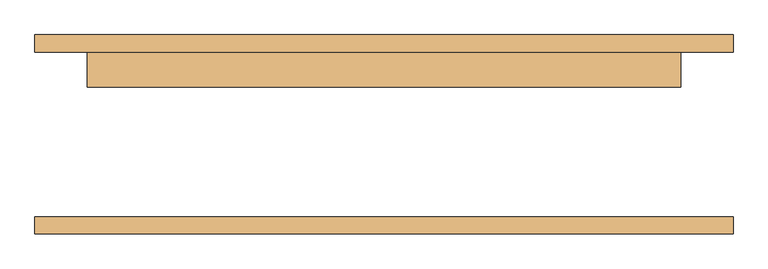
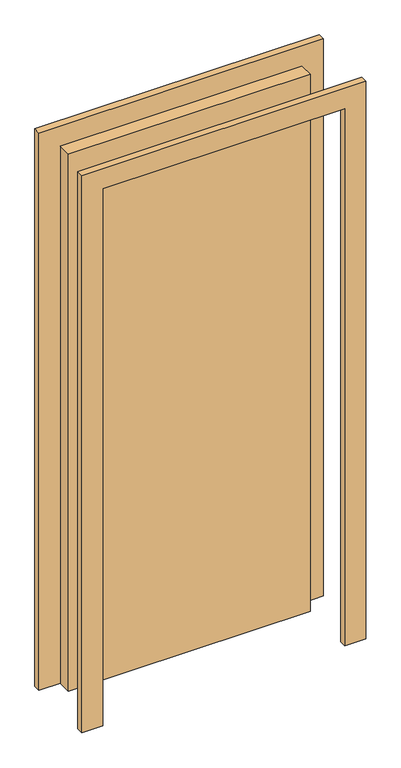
"""IFC4 building model written with IfcOpenShell, lengths in millimetres: door geometry, Одиночные-Щитовые : 0864 x 2032 мм."""

import ifcopenshell
import ifcopenshell.guid

model = None  # the IFC model being written
_history = None  # IfcOwnerHistory: only IFC2X3 demands one
_inside = {}  # id of a spatial element -> (the spatial element, [elements in it])
_under = {}  # id of a project, library or spatial element -> (it, [spatial elements below it])
_declared = {}  # id of a project -> (the project, [libraries it declares])
_typed = {}  # id of a type object -> (the type object, [elements of that type])
_made_of = {}  # id of a material, layer set ... -> (it, [elements and type objects made of it])


def new_model(schema):
    """Start an empty IFC model of exactly this schema.

    Asked for "IFC4X3", IfcOpenShell would pick the latest addendum, in which some entities
    have other attributes; the version numbers below select the first issue.
    IFC2X3 requires an IfcOwnerHistory on every rooted entity: one is made here for all.
    """
    global model, _history
    if schema == "IFC4X3":
        model = ifcopenshell.file(schema_version=(4, 3, 0, 0))
    else:
        model = ifcopenshell.file(schema=schema)
    _inside.clear()
    _under.clear()
    _declared.clear()
    _typed.clear()
    _made_of.clear()
    _history = None
    if model.schema == "IFC2X3":
        org = make("IfcOrganization", Name="unknown")
        user = make(
            "IfcPersonAndOrganization",
            ThePerson=make("IfcPerson", FamilyName="unknown"),
            TheOrganization=org,
        )
        app = make(
            "IfcApplication",
            ApplicationDeveloper=org,
            Version="unknown",
            ApplicationFullName="unknown",
            ApplicationIdentifier="unknown",
        )
        _history = make(
            "IfcOwnerHistory",
            OwningUser=user,
            OwningApplication=app,
            ChangeAction="ADDED",
            CreationDate=0,
        )
    return model


def make(cls, **values):
    """One entity of the class cls with the attributes given. An attribute that is None is left unset."""
    return model.create_entity(
        cls, **{name: value for name, value in values.items() if value is not None}
    )


def rooted(cls, **values):
    """An entity with a GlobalId (a new one), such as an element, a storey or a relation."""
    return make(cls, GlobalId=ifcopenshell.guid.new(), OwnerHistory=_history, **values)


def si_unit(unit_type, name, prefix=None):
    """IfcSIUnit, for example si_unit("LENGTHUNIT", "METRE", prefix="MILLI")."""
    return make("IfcSIUnit", UnitType=unit_type, Prefix=prefix, Name=name)


def assignment(units):
    """IfcUnitAssignment: the units of a project."""
    return None if units is None else make("IfcUnitAssignment", Units=units)


def point(xyz):
    """IfcCartesianPoint."""
    return None if xyz is None else make("IfcCartesianPoint", Coordinates=xyz)


def direction(xyz):
    """IfcDirection."""
    return None if xyz is None else make("IfcDirection", DirectionRatios=xyz)


def frame(location, z_axis=None, x_axis=None):
    """IfcAxis2Placement3D, a coordinate frame: its origin and axes. An axis left out is left unset."""
    return make(
        "IfcAxis2Placement3D",
        Location=point(location),
        Axis=direction(z_axis),
        RefDirection=direction(x_axis),
    )


def origin():
    """The frame at (0, 0, 0) with its axes left unset."""
    return frame((0.0, 0.0, 0.0))


def origin_with_axes():
    """The frame at (0, 0, 0) with the z axis (0, 0, 1) and the x axis (1, 0, 0) written out."""
    return frame((0.0, 0.0, 0.0), z_axis=(0.0, 0.0, 1.0), x_axis=(1.0, 0.0, 0.0))


def place(relative_to, where):
    """IfcLocalPlacement: puts the frame where relative to a parent placement (None: the world)."""
    return make(
        "IfcLocalPlacement", PlacementRelTo=relative_to, RelativePlacement=where
    )


def context(
    kind, dimensions, precision=None, world=None, true_north=None, identifier=None
):
    """IfcGeometricRepresentationContext, for example the 3D "Model" context."""
    return make(
        "IfcGeometricRepresentationContext",
        ContextIdentifier=identifier,
        ContextType=kind,
        CoordinateSpaceDimension=dimensions,
        Precision=precision,
        WorldCoordinateSystem=world,
        TrueNorth=true_north,
    )


def project(units=None, contexts=None):
    """IfcProject with its units and contexts."""
    return rooted(
        "IfcProject",
        Name="project",
        RepresentationContexts=contexts,
        UnitsInContext=assignment(units),
    )


def spatial(cls, under=None, at=None, **own):
    """A site, building, storey or space (cls), placed at a placement, below another one or the project."""
    s = rooted(cls, ObjectPlacement=at, **own)
    if under is not None:
        _under.setdefault(under.id(), (under, []))[1].append(s)
    return s


def polyline(points):
    """IfcPolyline through the points."""
    return make("IfcPolyline", Points=[point(p) for p in points])


def outline(outer, holes=None, kind="AREA"):
    """IfcArbitraryClosedProfileDef: a profile drawn as a closed curve; with holes, ...WithVoids."""
    if holes is None:
        return make("IfcArbitraryClosedProfileDef", ProfileType=kind, OuterCurve=outer)
    return make(
        "IfcArbitraryProfileDefWithVoids",
        ProfileType=kind,
        OuterCurve=outer,
        InnerCurves=holes,
    )


def extrude(swept, where, along, depth):
    """IfcExtrudedAreaSolid: the profile swept, set in the frame where, extruded along a direction by depth."""
    return make(
        "IfcExtrudedAreaSolid",
        SweptArea=swept,
        Position=where,
        ExtrudedDirection=direction(along),
        Depth=depth,
    )


def shape(context_of_items, identifier, shape_type, items):
    """IfcShapeRepresentation: the items that make up one representation, for example the "Body"."""
    return make(
        "IfcShapeRepresentation",
        ContextOfItems=context_of_items,
        RepresentationIdentifier=identifier,
        RepresentationType=shape_type,
        Items=items,
    )


def source(mapping_origin, context_of_items, identifier, shape_type, items):
    """IfcRepresentationMap: a shape defined once, which mapped items show again and again."""
    return make(
        "IfcRepresentationMap",
        MappingOrigin=mapping_origin,
        MappedRepresentation=shape(context_of_items, identifier, shape_type, items),
    )


def transform(
    local_origin,
    x_axis=None,
    y_axis=None,
    z_axis=None,
    scale=None,
    scale2=None,
    scale3=None,
    uniform=True,
):
    """IfcCartesianTransformationOperator3D, or its non-uniform kind. x_axis, y_axis, z_axis: its Axis1, 2, 3."""
    if uniform:
        return make(
            "IfcCartesianTransformationOperator3D",
            Axis1=direction(x_axis),
            Axis2=direction(y_axis),
            LocalOrigin=point(local_origin),
            Scale=scale,
            Axis3=direction(z_axis),
        )
    return make(
        "IfcCartesianTransformationOperator3DnonUniform",
        Axis1=direction(x_axis),
        Axis2=direction(y_axis),
        LocalOrigin=point(local_origin),
        Scale=scale,
        Axis3=direction(z_axis),
        Scale2=scale2,
        Scale3=scale3,
    )


def mapped(mapping_source, mapping_target):
    """IfcMappedItem: shows the shape of a source again, moved by a transform."""
    return make(
        "IfcMappedItem", MappingSource=mapping_source, MappingTarget=mapping_target
    )


def made_of(thing, what):
    """Note that an element or type object is made of a material, layer set ...; save() writes the relation."""
    if what is not None:
        _made_of.setdefault(what.id(), (what, []))[1].append(thing)
    return thing


def element(
    cls,
    number,
    at=None,
    inside=None,
    cuts=None,
    type_object=None,
    material=None,
    context=None,
    identifier="Body",
    shape_type=None,
    held_by="IfcProductDefinitionShape",
    body=None,
    shapes=None,
    **own,
):
    """One element of the class cls, such as IfcWall. Its Tag is "e" and its number.

    at: its placement. inside: the storey or other place that contains it. cuts: it is an
    opening in that element (IfcRelVoidsElement). A single representation is given by context,
    identifier, shape_type and body (its items); several are given by shapes. held_by: the class
    of the entity that holds the representations. save() writes the other relations.
    """
    e = rooted(cls, Tag="e%d" % number, ObjectPlacement=at, **own)
    if body is not None:
        shapes = [shape(context, identifier, shape_type, body)]
    if shapes is not None:
        e.Representation = make(held_by, Representations=shapes)
    if inside is not None:
        _inside.setdefault(inside.id(), (inside, []))[1].append(e)
    if cuts is not None:
        rooted(
            "IfcRelVoidsElement", RelatingBuildingElement=cuts, RelatedOpeningElement=e
        )
    if type_object is not None:
        _typed.setdefault(type_object.id(), (type_object, []))[1].append(e)
    return made_of(e, material)


def aggregate(whole, parts):
    """IfcRelAggregates: a whole, such as a stair, and the parts it consists of."""
    return rooted("IfcRelAggregates", RelatingObject=whole, RelatedObjects=parts)


def save(model, path):
    """Write the relations noted so far, then the file.

    IfcRelAggregates (storeys below a building ...), IfcRelContainedInSpatialStructure (elements
    in a storey), IfcRelDefinesByType, IfcRelAssociatesMaterial and IfcRelDeclares: one each for
    every whole, place, type object, material and project.
    """
    for whole, parts in _under.values():
        aggregate(whole, parts)
    for where, things in _inside.values():
        rooted(
            "IfcRelContainedInSpatialStructure",
            RelatedElements=things,
            RelatingStructure=where,
        )
    for kind, things in _typed.values():
        rooted("IfcRelDefinesByType", RelatedObjects=things, RelatingType=kind)
    for what, things in _made_of.values():
        rooted("IfcRelAssociatesMaterial", RelatedObjects=things, RelatingMaterial=what)
    for by, libraries in _declared.values():
        rooted("IfcRelDeclares", RelatingContext=by, RelatedDefinitions=libraries)
    model.write(path)


def door_ceafc53a(model_context):
    return source(origin(), model_context, "Body", "SweptSolid", [
        extrude(outline(polyline([(2108.0, -508.0), (0.0, -508.0), (0.0, -432.0), (2032.0, -432.0), (2032.0, 432.0), (0.0, 432.0), (0.0, 508.0), (2108.0, 508.0), (2108.0, -508.0)])), frame((0.0, 120.0, 0.0), z_axis=(0.0, 1.0, 0.0), x_axis=(0.0, 0.0, 1.0)), (0.0, 0.0, 1.0), 25.0),
        extrude(outline(polyline([(2108.0, 508.0), (2108.0, -508.0), (0.0, -508.0), (0.0, -432.0), (2032.0, -432.0), (2032.0, 432.0), (0.0, 432.0), (0.0, 508.0), (2108.0, 508.0)])), frame((0.0, -145.0, 0.0), z_axis=(0.0, 1.0, 0.0), x_axis=(0.0, 0.0, 1.0)), (0.0, 0.0, 1.0), 25.0),
        extrude(outline(polyline([(432.0, 69.0), (-432.0, 69.0), (-432.0, 120.0), (432.0, 120.0), (432.0, 69.0)])), origin_with_axes(), (0.0, 0.0, 1.0), 2032.0),
    ])


if __name__ == "__main__":
    model = new_model("IFC4")
    model_context = context("Model", 3, world=origin())
    ifc_project = project(units=[si_unit("LENGTHUNIT", "METRE", prefix="MILLI")], contexts=[model_context])
    site = spatial("IfcSite", under=ifc_project)
    building = spatial("IfcBuilding", under=site)
    placement = place(None, origin())
    door_shape = door_ceafc53a(model_context)
    element("IfcDoor", 1, ObjectType="Одиночные-Щитовые : 0864 x 2032 мм", at=placement, inside=building, context=model_context, shape_type="MappedRepresentation", body=[
        mapped(door_shape, transform((0.0, 0.0, 0.0), x_axis=(1.0, 0.0, 0.0), y_axis=(0.0, 1.0, 0.0), z_axis=(0.0, 0.0, 1.0))),
    ])
    save(model, "model.ifc")
